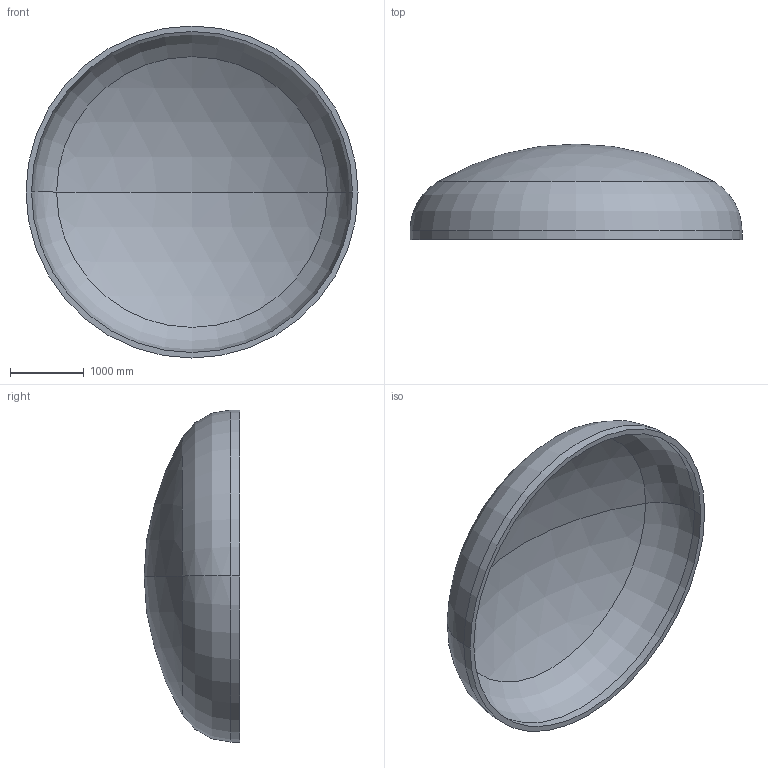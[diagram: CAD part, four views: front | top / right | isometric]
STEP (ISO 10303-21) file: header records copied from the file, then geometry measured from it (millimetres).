
FILE_DESCRIPTION (( 'STEP AP203' ), '1' );
FILE_NAME ('DIN 28013 Korbbogenform_-_Boden DIN 28013 - 4500 x 120 - I - s=74.step', '2016-07-01T23:41:12', ( '' ), ( '' ), 'SwSTEP 2.0', 'SolidWorks 2013', '' );
FILE_SCHEMA (( 'CONFIG_CONTROL_DESIGN' ));
Length unit declared in the file: millimetre
Products named in the file (1): DIN 28013 Korbbogenform_-_Boden DIN 28013 - 4500 x 120 - I - s=74
Bounding box: 4500 x 1294.87 x 4500 mm (x, y, z)
Volume: 1719410814 mm3; surface area: 47510961.7 mm2
Topology: 1 solids, 1 shells, 13 faces, 24 edges, 14 vertices
Faces by surface type: torus 4, cylinder 4, sphere 4, plane 1
Entity records: 407 total; most frequent: DIRECTION 72, CARTESIAN_POINT 52, ORIENTED_EDGE 48, AXIS2_PLACEMENT_3D 34, EDGE_CURVE 24, CIRCLE 20, VERTEX_POINT 14, EDGE_LOOP 14
